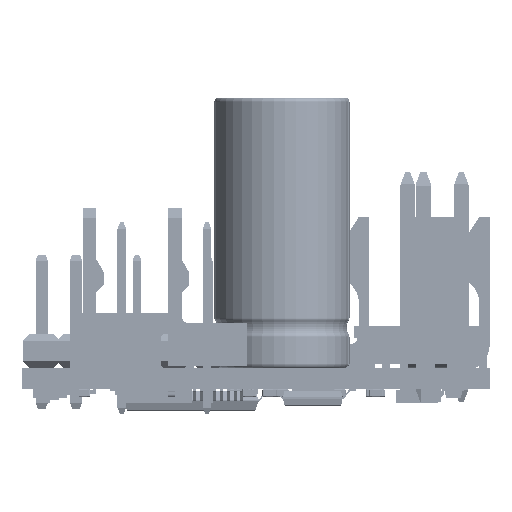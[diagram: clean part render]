
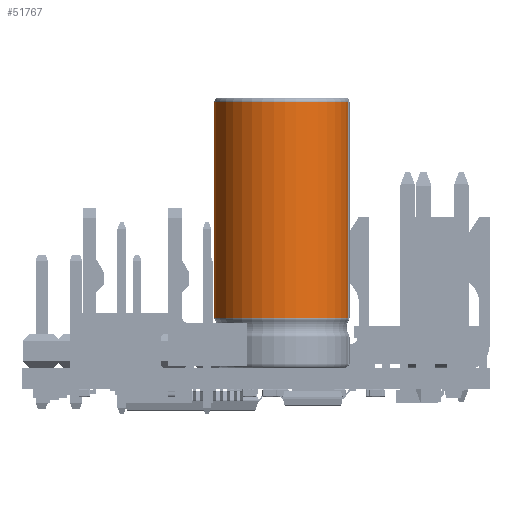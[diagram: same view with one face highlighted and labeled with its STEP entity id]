
A CAD part, left-side view. The second image highlights one B-rep face of the part: STEP entity #51767.
In plain terms, the highlighted cylindrical face has radius 5 mm (diameter 10 mm), a partial arc.
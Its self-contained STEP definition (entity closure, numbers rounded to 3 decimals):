
#5966=FACE_OUTER_BOUND('',#9740,.T.);
#9740=EDGE_LOOP('',(#44903,#44904,#44905,#44906));
#14166=LINE('',#83944,#19027);
#14177=LINE('',#84014,#19038);
#19027=VECTOR('',#69159,1.);
#19038=VECTOR('',#69230,1.);
#21803=CIRCLE('',#56777,5.);
#21804=CIRCLE('',#56779,5.);
#25673=VERTEX_POINT('',#83940);
#25675=VERTEX_POINT('',#83943);
#25696=VERTEX_POINT('',#83994);
#25704=VERTEX_POINT('',#84012);
#32153=EDGE_CURVE('',#25675,#25673,#14166,.T.);
#32189=EDGE_CURVE('',#25696,#25704,#14177,.T.);
#32193=EDGE_CURVE('',#25696,#25673,#21803,.T.);
#32194=EDGE_CURVE('',#25675,#25704,#21804,.T.);
#44903=ORIENTED_EDGE('',*,*,#32153,.T.);
#44904=ORIENTED_EDGE('',*,*,#32193,.F.);
#44905=ORIENTED_EDGE('',*,*,#32189,.T.);
#44906=ORIENTED_EDGE('',*,*,#32194,.F.);
#48322=CYLINDRICAL_SURFACE('',#56778,5.);
#51767=ADVANCED_FACE('',(#5966),#48322,.T.);
#56777=AXIS2_PLACEMENT_3D('',#84023,#69247,#69248);
#56778=AXIS2_PLACEMENT_3D('',#84024,#69249,#69250);
#56779=AXIS2_PLACEMENT_3D('',#84025,#69251,#69252);
#69159=DIRECTION('',(0.,0.,1.));
#69230=DIRECTION('',(0.,0.,-1.));
#69247=DIRECTION('center_axis',(0.,0.,1.));
#69248=DIRECTION('ref_axis',(-1.,0.,0.));
#69249=DIRECTION('center_axis',(0.,0.,1.));
#69250=DIRECTION('ref_axis',(-1.,0.,0.));
#69251=DIRECTION('center_axis',(0.,0.,-1.));
#69252=DIRECTION('ref_axis',(1.,0.,0.));
#83940=CARTESIAN_POINT('',(4.938,-0.782,19.667));
#83943=CARTESIAN_POINT('',(4.938,-0.782,3.702));
#83944=CARTESIAN_POINT('',(4.938,-0.782,10.));
#83994=CARTESIAN_POINT('',(4.938,0.782,19.667));
#84012=CARTESIAN_POINT('',(4.938,0.782,3.702));
#84014=CARTESIAN_POINT('',(4.938,0.782,10.));
#84023=CARTESIAN_POINT('Origin',(0.,0.,19.667));
#84024=CARTESIAN_POINT('Origin',(0.,0.,10.));
#84025=CARTESIAN_POINT('Origin',(0.,0.,3.702));
